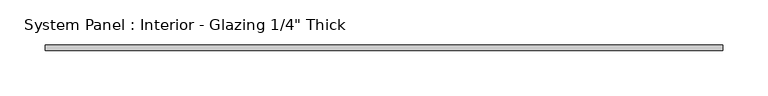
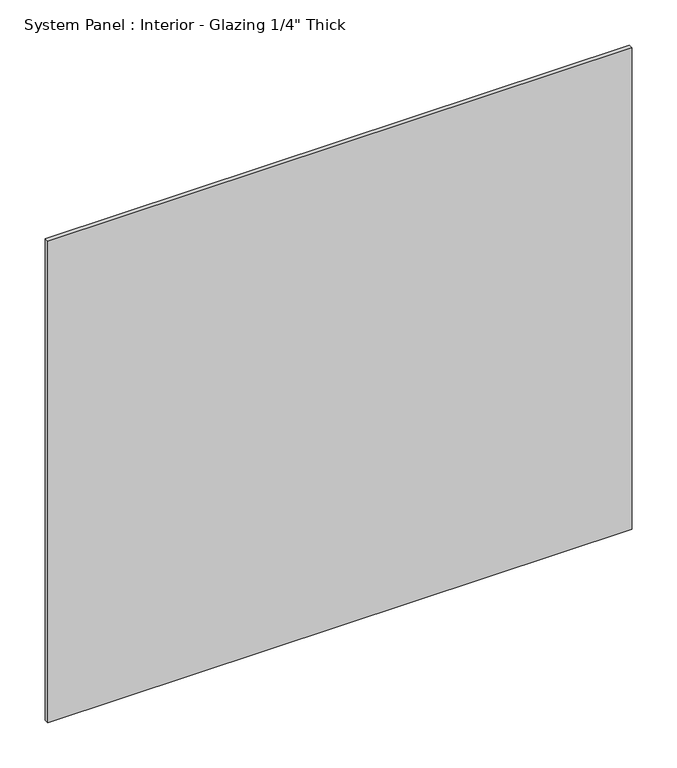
"""IFC4 building model written with IfcOpenShell, lengths in millimetres: plate geometry."""

import ifcopenshell
import ifcopenshell.guid

model = None  # the IFC model being written
_history = None  # IfcOwnerHistory: only IFC2X3 demands one
_inside = {}  # id of a spatial element -> (the spatial element, [elements in it])
_under = {}  # id of a project, library or spatial element -> (it, [spatial elements below it])
_declared = {}  # id of a project -> (the project, [libraries it declares])
_typed = {}  # id of a type object -> (the type object, [elements of that type])
_made_of = {}  # id of a material, layer set ... -> (it, [elements and type objects made of it])


def new_model(schema):
    """Start an empty IFC model of exactly this schema.

    Asked for "IFC4X3", IfcOpenShell would pick the latest addendum, in which some entities
    have other attributes; the version numbers below select the first issue.
    IFC2X3 requires an IfcOwnerHistory on every rooted entity: one is made here for all.
    """
    global model, _history
    if schema == "IFC4X3":
        model = ifcopenshell.file(schema_version=(4, 3, 0, 0))
    else:
        model = ifcopenshell.file(schema=schema)
    _inside.clear()
    _under.clear()
    _declared.clear()
    _typed.clear()
    _made_of.clear()
    _history = None
    if model.schema == "IFC2X3":
        org = make("IfcOrganization", Name="unknown")
        user = make(
            "IfcPersonAndOrganization",
            ThePerson=make("IfcPerson", FamilyName="unknown"),
            TheOrganization=org,
        )
        app = make(
            "IfcApplication",
            ApplicationDeveloper=org,
            Version="unknown",
            ApplicationFullName="unknown",
            ApplicationIdentifier="unknown",
        )
        _history = make(
            "IfcOwnerHistory",
            OwningUser=user,
            OwningApplication=app,
            ChangeAction="ADDED",
            CreationDate=0,
        )
    return model


def make(cls, **values):
    """One entity of the class cls with the attributes given. An attribute that is None is left unset."""
    return model.create_entity(
        cls, **{name: value for name, value in values.items() if value is not None}
    )


def rooted(cls, **values):
    """An entity with a GlobalId (a new one), such as an element, a storey or a relation."""
    return make(cls, GlobalId=ifcopenshell.guid.new(), OwnerHistory=_history, **values)


def si_unit(unit_type, name, prefix=None):
    """IfcSIUnit, for example si_unit("LENGTHUNIT", "METRE", prefix="MILLI")."""
    return make("IfcSIUnit", UnitType=unit_type, Prefix=prefix, Name=name)


def assignment(units):
    """IfcUnitAssignment: the units of a project."""
    return None if units is None else make("IfcUnitAssignment", Units=units)


def point(xyz):
    """IfcCartesianPoint."""
    return None if xyz is None else make("IfcCartesianPoint", Coordinates=xyz)


def direction(xyz):
    """IfcDirection."""
    return None if xyz is None else make("IfcDirection", DirectionRatios=xyz)


def frame(location, z_axis=None, x_axis=None):
    """IfcAxis2Placement3D, a coordinate frame: its origin and axes. An axis left out is left unset."""
    return make(
        "IfcAxis2Placement3D",
        Location=point(location),
        Axis=direction(z_axis),
        RefDirection=direction(x_axis),
    )


def origin():
    """The frame at (0, 0, 0) with its axes left unset."""
    return frame((0.0, 0.0, 0.0))


def origin_with_axes():
    """The frame at (0, 0, 0) with the z axis (0, 0, 1) and the x axis (1, 0, 0) written out."""
    return frame((0.0, 0.0, 0.0), z_axis=(0.0, 0.0, 1.0), x_axis=(1.0, 0.0, 0.0))


def place(relative_to, where):
    """IfcLocalPlacement: puts the frame where relative to a parent placement (None: the world)."""
    return make(
        "IfcLocalPlacement", PlacementRelTo=relative_to, RelativePlacement=where
    )


def context(
    kind, dimensions, precision=None, world=None, true_north=None, identifier=None
):
    """IfcGeometricRepresentationContext, for example the 3D "Model" context."""
    return make(
        "IfcGeometricRepresentationContext",
        ContextIdentifier=identifier,
        ContextType=kind,
        CoordinateSpaceDimension=dimensions,
        Precision=precision,
        WorldCoordinateSystem=world,
        TrueNorth=true_north,
    )


def project(units=None, contexts=None):
    """IfcProject with its units and contexts."""
    return rooted(
        "IfcProject",
        Name="project",
        RepresentationContexts=contexts,
        UnitsInContext=assignment(units),
    )


def spatial(cls, under=None, at=None, **own):
    """A site, building, storey or space (cls), placed at a placement, below another one or the project."""
    s = rooted(cls, ObjectPlacement=at, **own)
    if under is not None:
        _under.setdefault(under.id(), (under, []))[1].append(s)
    return s


def polyline(points):
    """IfcPolyline through the points."""
    return make("IfcPolyline", Points=[point(p) for p in points])


def outline(outer, holes=None, kind="AREA"):
    """IfcArbitraryClosedProfileDef: a profile drawn as a closed curve; with holes, ...WithVoids."""
    if holes is None:
        return make("IfcArbitraryClosedProfileDef", ProfileType=kind, OuterCurve=outer)
    return make(
        "IfcArbitraryProfileDefWithVoids",
        ProfileType=kind,
        OuterCurve=outer,
        InnerCurves=holes,
    )


def extrude(swept, where, along, depth):
    """IfcExtrudedAreaSolid: the profile swept, set in the frame where, extruded along a direction by depth."""
    return make(
        "IfcExtrudedAreaSolid",
        SweptArea=swept,
        Position=where,
        ExtrudedDirection=direction(along),
        Depth=depth,
    )


def shape(context_of_items, identifier, shape_type, items):
    """IfcShapeRepresentation: the items that make up one representation, for example the "Body"."""
    return make(
        "IfcShapeRepresentation",
        ContextOfItems=context_of_items,
        RepresentationIdentifier=identifier,
        RepresentationType=shape_type,
        Items=items,
    )


def source(mapping_origin, context_of_items, identifier, shape_type, items):
    """IfcRepresentationMap: a shape defined once, which mapped items show again and again."""
    return make(
        "IfcRepresentationMap",
        MappingOrigin=mapping_origin,
        MappedRepresentation=shape(context_of_items, identifier, shape_type, items),
    )


def transform(
    local_origin,
    x_axis=None,
    y_axis=None,
    z_axis=None,
    scale=None,
    scale2=None,
    scale3=None,
    uniform=True,
):
    """IfcCartesianTransformationOperator3D, or its non-uniform kind. x_axis, y_axis, z_axis: its Axis1, 2, 3."""
    if uniform:
        return make(
            "IfcCartesianTransformationOperator3D",
            Axis1=direction(x_axis),
            Axis2=direction(y_axis),
            LocalOrigin=point(local_origin),
            Scale=scale,
            Axis3=direction(z_axis),
        )
    return make(
        "IfcCartesianTransformationOperator3DnonUniform",
        Axis1=direction(x_axis),
        Axis2=direction(y_axis),
        LocalOrigin=point(local_origin),
        Scale=scale,
        Axis3=direction(z_axis),
        Scale2=scale2,
        Scale3=scale3,
    )


def mapped(mapping_source, mapping_target):
    """IfcMappedItem: shows the shape of a source again, moved by a transform."""
    return make(
        "IfcMappedItem", MappingSource=mapping_source, MappingTarget=mapping_target
    )


def made_of(thing, what):
    """Note that an element or type object is made of a material, layer set ...; save() writes the relation."""
    if what is not None:
        _made_of.setdefault(what.id(), (what, []))[1].append(thing)
    return thing


def element(
    cls,
    number,
    at=None,
    inside=None,
    cuts=None,
    type_object=None,
    material=None,
    context=None,
    identifier="Body",
    shape_type=None,
    held_by="IfcProductDefinitionShape",
    body=None,
    shapes=None,
    **own,
):
    """One element of the class cls, such as IfcWall. Its Tag is "e" and its number.

    at: its placement. inside: the storey or other place that contains it. cuts: it is an
    opening in that element (IfcRelVoidsElement). A single representation is given by context,
    identifier, shape_type and body (its items); several are given by shapes. held_by: the class
    of the entity that holds the representations. save() writes the other relations.
    """
    e = rooted(cls, Tag="e%d" % number, ObjectPlacement=at, **own)
    if body is not None:
        shapes = [shape(context, identifier, shape_type, body)]
    if shapes is not None:
        e.Representation = make(held_by, Representations=shapes)
    if inside is not None:
        _inside.setdefault(inside.id(), (inside, []))[1].append(e)
    if cuts is not None:
        rooted(
            "IfcRelVoidsElement", RelatingBuildingElement=cuts, RelatedOpeningElement=e
        )
    if type_object is not None:
        _typed.setdefault(type_object.id(), (type_object, []))[1].append(e)
    return made_of(e, material)


def aggregate(whole, parts):
    """IfcRelAggregates: a whole, such as a stair, and the parts it consists of."""
    return rooted("IfcRelAggregates", RelatingObject=whole, RelatedObjects=parts)


def save(model, path):
    """Write the relations noted so far, then the file.

    IfcRelAggregates (storeys below a building ...), IfcRelContainedInSpatialStructure (elements
    in a storey), IfcRelDefinesByType, IfcRelAssociatesMaterial and IfcRelDeclares: one each for
    every whole, place, type object, material and project.
    """
    for whole, parts in _under.values():
        aggregate(whole, parts)
    for where, things in _inside.values():
        rooted(
            "IfcRelContainedInSpatialStructure",
            RelatedElements=things,
            RelatingStructure=where,
        )
    for kind, things in _typed.values():
        rooted("IfcRelDefinesByType", RelatedObjects=things, RelatingType=kind)
    for what, things in _made_of.values():
        rooted("IfcRelAssociatesMaterial", RelatedObjects=things, RelatingMaterial=what)
    for by, libraries in _declared.values():
        rooted("IfcRelDeclares", RelatingContext=by, RelatedDefinitions=libraries)
    model.write(path)


def plate_a1edb61d(model_context):
    return source(origin(), model_context, "Body", "SweptSolid", [
        extrude(outline(polyline([(374.65, -3.175), (-374.65, -3.175), (-374.65, 3.175), (374.65, 3.175), (374.65, -3.175)])), origin_with_axes(), (0.0, 0.0, 1.0), 652.6697437),
    ])


if __name__ == "__main__":
    model = new_model("IFC4")
    model_context = context("Model", 3, world=origin())
    ifc_project = project(units=[si_unit("LENGTHUNIT", "METRE", prefix="MILLI")], contexts=[model_context])
    site = spatial("IfcSite", under=ifc_project)
    building = spatial("IfcBuilding", under=site)
    placement = place(None, origin())
    plate_shape = plate_a1edb61d(model_context)
    element("IfcPlate", 1, ObjectType="System Panel : Interior - Glazing 1/4\" Thick", at=placement, inside=building, context=model_context, shape_type="MappedRepresentation", body=[
        mapped(plate_shape, transform((0.0, 0.0, 0.0), x_axis=(1.0, 0.0, 0.0), y_axis=(0.0, 1.0, 0.0), z_axis=(0.0, 0.0, 1.0))),
    ])
    save(model, "model.ifc")
